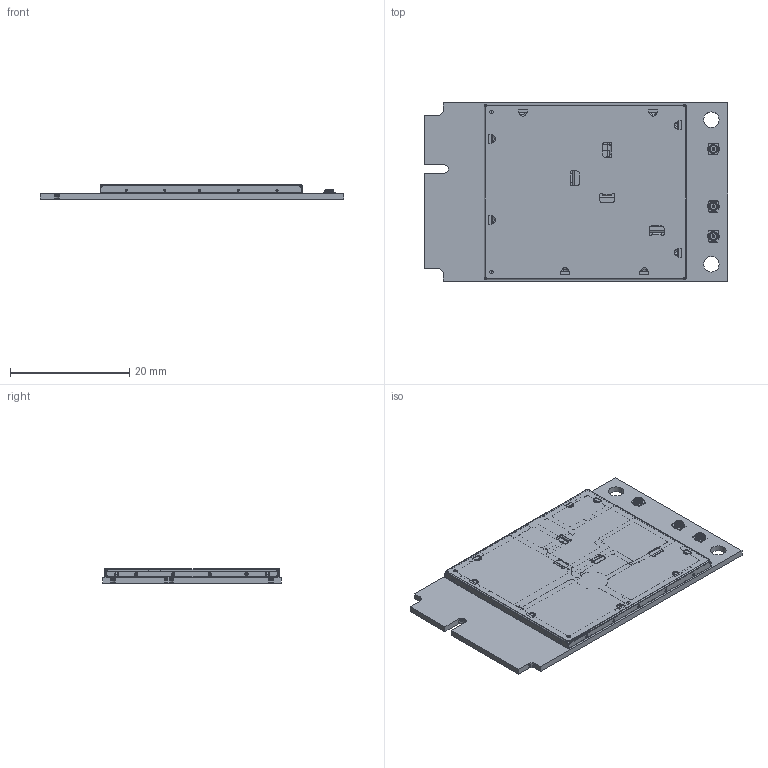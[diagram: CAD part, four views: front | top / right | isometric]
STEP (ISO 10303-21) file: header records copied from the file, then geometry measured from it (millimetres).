
FILE_DESCRIPTION((''),'2;1');
FILE_NAME('MC-7430_ASM','2015-12-04T',('smar'),('Sierra Wireless'),'PRO/ENGINEER BY PARAMETRIC TECHNOLOGY CORPORATION, 2013130','PRO/ENGINEER BY PARAMETRIC TECHNOLOGY CORPORATION, 2013130','');
FILE_SCHEMA(('AUTOMOTIVE_DESIGN { 1 0 10303 214 1 1 1 1 }'));
Products named in the file (5): XX7; 1304130; 1304131; IPEX_MH4_042512; MC-7430_ASM
Assembly tree (6 placements, depth 2):
  MC-7430_ASM
    XX7
    1304130
    1304131
    IPEX_MH4_042512  x3
Bounding box: 50.8 x 29.9 x 2.43 mm (x, y, z)
Surface area: 7249.4 mm2 (no closed solid volume)
Topology: 0 solids, 7 shells, 2220 faces, 6211 edges, 3938 vertices
Faces by surface type: cylinder 1072, plane 981, sphere 105, cone 30, bspline 16, torus 16
Entity records: 95083 total; most frequent: CARTESIAN_POINT 13214, DIRECTION 12396, ORIENTED_EDGE 11694, PRESENTATION_STYLE_ASSIGNMENT 6621, EDGE_CURVE 5847, STYLED_ITEM 5658, CURVE_STYLE 5600, AXIS2_PLACEMENT_3D 4520
